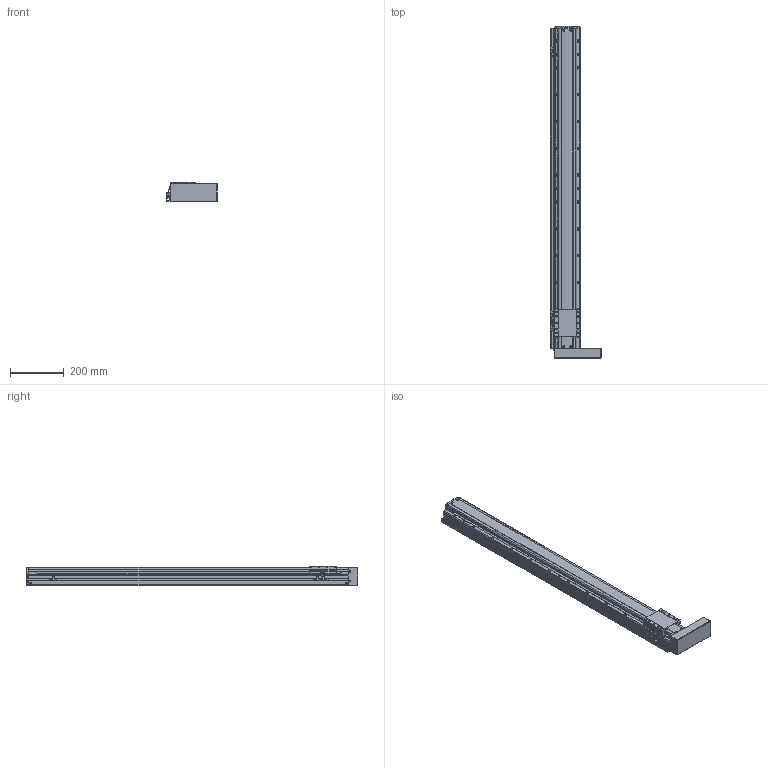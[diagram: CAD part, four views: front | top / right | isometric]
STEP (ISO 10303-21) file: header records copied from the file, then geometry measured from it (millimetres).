
FILE_DESCRIPTION(('STEP AP214'),'1');
FILE_NAME('Z:/Web/3D/PSA95/STP/PSA95-1000 (3D)/PSA95ㅁㅁ-1000PR+3SL.stp','2014-07-03T01:08:59',(' '),(' '),'Spatial InterOp 3D',' ',' ');
FILE_SCHEMA(('automotive_design'));
Length unit declared in the file: millimetre
Products named in the file (41): BASE; RRCV; 스크루 : Round - M4.0 x 10.0; 너트 : Square - M10.0 x 220.7419; RR1500; FRCV-090; 스크루 : Round - M4.0 x 6.0; SLBL-PA90; MOTOR PLATE COVER; 스크루 : Round - M3.0 x 6.0; EE-SX674; SBK-SX674-352; M3.0 x 6.0; SRL-16x17-380L; SGD-PA95; 스크루 : Round - M3.0 x 8.0
Bounding box: 192.06 x 1236.5 x 74 mm (x, y, z)
Volume: 6955702.5 mm3; surface area: 800660.4 mm2
Topology: 41 solids, 41 shells, 2492 faces, 6654 edges, 4262 vertices
Faces by surface type: plane 1416, cylinder 739, cone 237, sphere 62, bspline 24, torus 14
Entity records: 100052 total; most frequent: CARTESIAN_POINT 16636, DIRECTION 13248, ORIENTED_EDGE 13004, EDGE_CURVE 6502, AXIS2_PLACEMENT_3D 4428, LINE 4392, VECTOR 4392, VERTEX_POINT 4262
